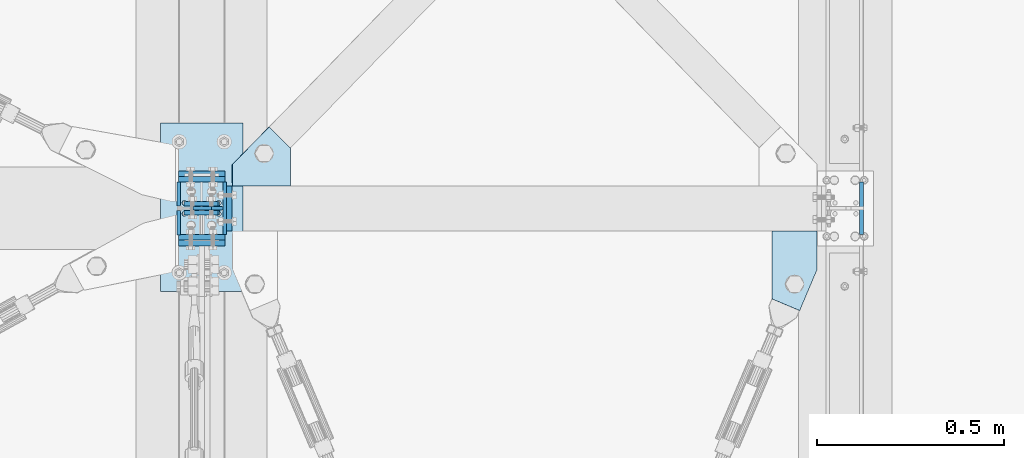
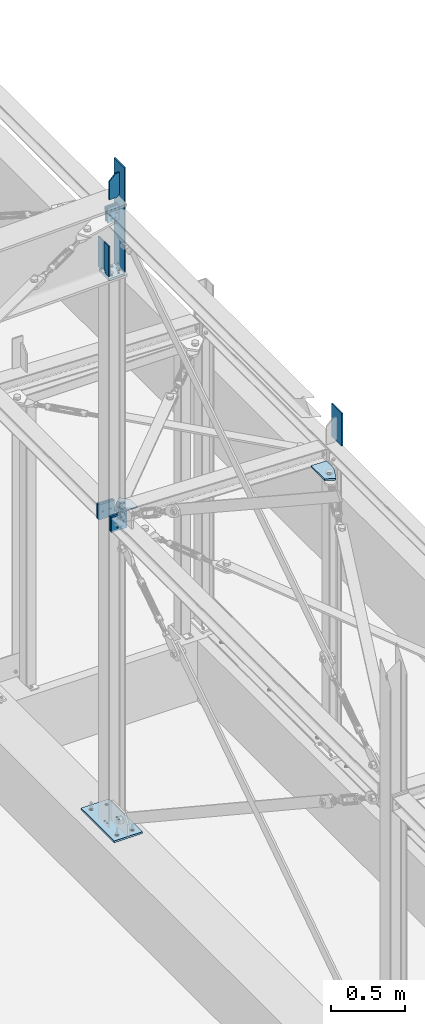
# One storey, part 62 of 476: 16 plates, 62 openings.
"""IFC2X3 building model written with IfcOpenShell, lengths in millimetres."""

from ifc_helpers import new_model, entity, si_unit, converted_unit, point, frame, frame_2d, origin, origin_with_axes, origin_2d_with_axis, place, context, project, spatial, polyline, circle_curve, line_curve, trimmed, segment, composite_curve, circle, outline, extrude, material, layer, layer_set, element, save


model = new_model("IFC2X3")

# Units and contexts
model_context = context("Model", 3, precision=1e-09, world=origin_with_axes())
ifc_project = project(units=[si_unit("LENGTHUNIT", "METRE", prefix="MILLI"), si_unit("AREAUNIT", "SQUARE_METRE"), si_unit("VOLUMEUNIT", "CUBIC_METRE"), converted_unit("PLANEANGLEUNIT", "DEGREE", entity("IfcPlaneAngleMeasure", 0.01745329), si_unit("PLANEANGLEUNIT", "RADIAN"), dimensions=[0, 0, 0, 0, 0, 0, 0])], contexts=[model_context])

# Site, building, storey
site_placement = place(None, origin_with_axes())
site = spatial("IfcSite", under=ifc_project, at=site_placement, Name="mKR Teilneubau & Sanierung BA1 - Ostfildern", CompositionType="ELEMENT")
building_placement = place(site_placement, origin_with_axes())
building = spatial("IfcBuilding", under=site, at=building_placement, Name="Struktur 1", CompositionType="ELEMENT")
storey_placement = place(building_placement, origin_with_axes())
storey = spatial("IfcBuildingStorey", under=building, at=storey_placement, Name="Default Storey", CompositionType="ELEMENT", Elevation=0.0)

# Plate, openings
ifc_material = material(Name="S235JR")
ifc_layer_1 = layer(ifc_material, 15.0)
ifc_layer_set_1 = layer_set([ifc_layer_1], Name="S235JR")
plate_1_placement = place(None, frame((23489.241863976, -6190.757397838, 2966.684261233), z_axis=(-0.029057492, 0.0, -0.999577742), x_axis=(0.0, 1.0, 0.0)))
plate_1 = element("IfcPlate", 1, at=plate_1_placement, inside=storey, material=ifc_layer_set_1, Name="-", ObjectType="-", context=model_context, shape_type="SweptSolid", body=[
    extrude(outline(polyline([(0.0, 0.0), (182.083518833, 0.0), (182.083518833, 120.416747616), (79.371322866, 120.416747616), (-31.155014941, 73.684225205), (0.0, 0.0)])), origin_with_axes(), (0.0, 0.0, -1.0), 15.0),
])
opening_1_placement = place(plate_1_placement, frame((182.083518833, 120.417747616, 0.0), z_axis=(0.0, -1.0, 0.0), x_axis=(-1.0, 0.0, 0.0)))
element("IfcOpeningElement", 2, at=opening_1_placement, cuts=plate_1, ObjectType="Opening", context=model_context, shape_type="SweptSolid", body=[
    extrude(outline(polyline([(0.0, 0.0), (8.0, 0.0), (0.0, 8.0), (0.0, 0.0)])), origin(), (0.0, 0.0, 1.0), 120.438747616),
])
opening_2_placement = place(plate_1_placement, frame((54.186661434, 60.208373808, 0.5), z_axis=(0.0, 0.0, 1.0), x_axis=(1.0, 0.0, 0.0)))
element("IfcOpeningElement", 3, at=opening_2_placement, cuts=plate_1, ObjectType="Opening", context=model_context, shape_type="SweptSolid", body=[
    extrude(circle(Radius=14.501, at=frame_2d((-14.501, 0.0), x_axis=(1.0, 0.0))), origin(), (0.0, 0.0, -1.0), 16.0),
])

ifc_layer_2 = layer(ifc_material, 10.0)
ifc_layer_set_2 = layer_set([ifc_layer_2], Name="S235JR")
plate_2_placement = place(None, frame((21942.108764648, -5943.67387897, 5888.306606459), z_axis=(0.0, 1.0, 0.0), x_axis=(1.0, 0.0, 0.0)))
plate_2 = element("IfcPlate", 4, at=plate_2_placement, inside=storey, material=ifc_layer_set_2, Name="-", ObjectType="-", context=model_context, shape_type="SweptSolid", body=[
    extrude(outline(polyline([(0.0, 0.0), (80.0, 0.0), (80.0, 197.595559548), (0.0, 200.0), (0.0, 0.0)])), origin_with_axes(), (0.0, 0.0, -1.0), 10.0),
])
opening_3_placement = place(plate_2_placement, frame((0.0, 0.0, 0.01), z_axis=(0.0, 0.0, 1.0), x_axis=(1.0, 0.0, 0.0)))
element("IfcOpeningElement", 5, at=opening_3_placement, cuts=plate_2, ObjectType="Opening", context=model_context, shape_type="SweptSolid", body=[
    extrude(outline(polyline([(0.0, 0.0), (50.0, 0.0), (0.0, 50.0), (0.0, 0.0)])), origin(), (0.0, 0.0, -1.0), 10.02),
])
opening_4_placement = place(plate_2_placement, frame((80.0, 197.595559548, 0.01), z_axis=(0.0, 0.0, 1.0), x_axis=(-0.999548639, 0.03004194, 0.0)))
element("IfcOpeningElement", 6, at=opening_4_placement, cuts=plate_2, ObjectType="Opening", context=model_context, shape_type="SweptSolid", body=[
    extrude(outline(polyline([(0.0, 0.0), (20.0, 0.0), (-0.600838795, 19.990972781), (0.0, 0.0)])), origin(), (0.0, 0.0, -1.0), 10.02),
])

# Plate
plate_3_placement = place(None, frame((23723.608764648, -6018.67387897, 2465.729061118), z_axis=(1.0, 0.0, 0.0), x_axis=(0.0, 1.0, 0.0)))
element("IfcPlate", 7, at=plate_3_placement, inside=storey, material=ifc_layer_set_2, Name="Coverplate", ObjectType="Coverplate", context=model_context, shape_type="SweptSolid", body=[
    extrude(outline(polyline([(0.0, 600.270938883), (140.0, 600.270938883), (140.0, 870.270938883), (0.0, 870.270938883), (0.0, 600.270938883)])), origin_with_axes(), (0.0, 0.0, 1.0), 10.0),
])

# Plate, openings
plate_4_placement = place(None, frame((22047.108764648, -5948.67387897, 3065.630813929), z_axis=(-1.0, 0.0, 0.0), x_axis=(0.0, 0.0, -1.0)))
plate_4 = element("IfcPlate", 8, at=plate_4_placement, inside=storey, material=ifc_layer_set_1, Name="Endplate", ObjectType="Endplate", context=model_context, shape_type="SweptSolid", body=[
    extrude(outline(polyline([(-52.0, -60.0), (52.0, -60.0), (52.0, 60.0), (-52.0, 60.0), (-52.0, -60.0)])), origin_with_axes(), (0.0, 0.0, 1.0), 15.0),
])
opening_5_placement = place(plate_4_placement, frame((-37.020699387, 14.5, 15.5), z_axis=(0.0, 0.0, -1.0), x_axis=(-1.0, 0.0, 0.0)))
element("IfcOpeningElement", 9, at=opening_5_placement, cuts=plate_4, ObjectType="Opening", context=model_context, shape_type="SweptSolid", body=[
    extrude(circle(Radius=6.001, at=origin_2d_with_axis()), origin(), (0.0, 0.0, 1.0), 16.0),
])
opening_6_placement = place(plate_4_placement, frame((37.020699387, 14.5, 15.5), z_axis=(0.0, 0.0, -1.0), x_axis=(-1.0, 0.0, 0.0)))
element("IfcOpeningElement", 10, at=opening_6_placement, cuts=plate_4, ObjectType="Opening", context=model_context, shape_type="SweptSolid", body=[
    extrude(circle(Radius=6.001, at=origin_2d_with_axis()), origin(), (0.0, 0.0, 1.0), 16.0),
])
opening_7_placement = place(plate_4_placement, frame((37.020699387, -14.5, 15.5), z_axis=(0.0, 0.0, -1.0), x_axis=(-1.0, 0.0, 0.0)))
element("IfcOpeningElement", 11, at=opening_7_placement, cuts=plate_4, ObjectType="Opening", context=model_context, shape_type="SweptSolid", body=[
    extrude(circle(Radius=6.001, at=origin_2d_with_axis()), origin(), (0.0, 0.0, 1.0), 16.0),
])
opening_8_placement = place(plate_4_placement, frame((-37.020699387, -14.5, 15.5), z_axis=(0.0, 0.0, -1.0), x_axis=(-1.0, 0.0, 0.0)))
element("IfcOpeningElement", 12, at=opening_8_placement, cuts=plate_4, ObjectType="Opening", context=model_context, shape_type="SweptSolid", body=[
    extrude(circle(Radius=6.001, at=origin_2d_with_axis()), origin(), (0.0, 0.0, 1.0), 16.0),
])
opening_9_placement = place(plate_4_placement, frame((-25.0, -35.0, 15.5), z_axis=(0.0, 0.0, -1.0), x_axis=(0.0, -1.0, 0.0)))
element("IfcOpeningElement", 13, at=opening_9_placement, cuts=plate_4, ObjectType="Opening", context=model_context, shape_type="SweptSolid", body=[
    extrude(circle(Radius=7.001, at=origin_2d_with_axis()), origin(), (0.0, 0.0, 1.0), 16.0),
])
opening_10_placement = place(plate_4_placement, frame((25.0, -35.0, 15.5), z_axis=(0.0, 0.0, -1.0), x_axis=(0.0, -1.0, 0.0)))
element("IfcOpeningElement", 14, at=opening_10_placement, cuts=plate_4, ObjectType="Opening", context=model_context, shape_type="SweptSolid", body=[
    extrude(circle(Radius=7.001, at=origin_2d_with_axis()), origin(), (0.0, 0.0, 1.0), 16.0),
])
opening_11_placement = place(plate_4_placement, frame((-25.0, 35.0, 15.5), z_axis=(0.0, 0.0, -1.0), x_axis=(0.0, 1.0, 0.0)))
element("IfcOpeningElement", 15, at=opening_11_placement, cuts=plate_4, ObjectType="Opening", context=model_context, shape_type="SweptSolid", body=[
    extrude(circle(Radius=7.001, at=origin_2d_with_axis()), origin(), (0.0, 0.0, 1.0), 16.0),
])
opening_12_placement = place(plate_4_placement, frame((25.0, 35.0, 15.5), z_axis=(0.0, 0.0, -1.0), x_axis=(0.0, 1.0, 0.0)))
element("IfcOpeningElement", 16, at=opening_12_placement, cuts=plate_4, ObjectType="Opening", context=model_context, shape_type="SweptSolid", body=[
    extrude(circle(Radius=7.001, at=origin_2d_with_axis()), origin(), (0.0, 0.0, 1.0), 16.0),
])

plate_5_placement = place(None, frame((22202.538978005, -5888.67387897, 3019.094751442), z_axis=(-0.029057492, 0.0, -0.999577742), x_axis=(-0.999577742, 0.0, 0.029057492)))
plate_5 = element("IfcPlate", 17, at=plate_5_placement, inside=storey, material=ifc_layer_set_1, Name="-", ObjectType="-", context=model_context, shape_type="SweptSolid", body=[
    extrude(outline(polyline([(0.0, 0.0), (155.058825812, 0.0), (155.058825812, 57.239054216), (57.223526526, 157.380225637), (0.0, 101.474340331), (0.0, 0.0)])), origin_with_axes(), (0.0, 0.0, 1.0), 15.0),
])
opening_13_placement = place(plate_5_placement, frame((155.059825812, 0.0, 15.0), z_axis=(-1.0, 0.0, 0.0), x_axis=(0.0, 1.0, 0.0)))
element("IfcOpeningElement", 18, at=opening_13_placement, cuts=plate_5, ObjectType="Opening", context=model_context, shape_type="SweptSolid", body=[
    extrude(outline(polyline([(0.0, 0.0), (8.0, 0.0), (0.0, 8.0), (0.0, 0.0)])), origin(), (0.0, 0.0, 1.0), 155.080825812),
])
opening_14_placement = place(plate_5_placement, frame((70.541177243, 86.509638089, 15.5), z_axis=(0.0, 0.0, -1.0), x_axis=(0.0, 1.0, 0.0)))
element("IfcOpeningElement", 19, at=opening_14_placement, cuts=plate_5, ObjectType="Opening", context=model_context, shape_type="SweptSolid", body=[
    extrude(circle(Radius=14.501, at=origin_2d_with_axis()), origin(), (0.0, 0.0, 1.0), 16.0),
])

plate_6_placement = place(None, frame((22075.608764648, -5720.67387897, 545.0), z_axis=(0.0, 0.0, -1.0), x_axis=(0.0, -1.0, 0.0)))
plate_6 = element("IfcPlate", 20, at=plate_6_placement, inside=storey, material=ifc_layer_set_1, Name="Baseplate", ObjectType="Baseplate", context=model_context, shape_type="SweptSolid", body=[
    extrude(outline(polyline([(0.0, 0.0), (450.0, 0.0), (450.0, 220.0), (0.0, 220.0), (0.0, 0.0)])), origin_with_axes(), (0.0, 0.0, 1.0), 15.0),
])
opening_15_placement = place(plate_6_placement, frame((50.0, 170.0, 15.5), z_axis=(0.0, 0.0, -1.0), x_axis=(1.0, 0.0, 0.0)))
element("IfcOpeningElement", 21, at=opening_15_placement, cuts=plate_6, ObjectType="Opening", context=model_context, shape_type="SweptSolid", body=[
    extrude(circle(Radius=11.001, at=frame_2d((350.0, 120.0), x_axis=(1.0, 0.0))), origin(), (0.0, 0.0, 1.0), 16.0),
])
opening_16_placement = place(plate_6_placement, frame((50.0, 170.0, 15.5), z_axis=(0.0, 0.0, -1.0), x_axis=(1.0, 0.0, 0.0)))
element("IfcOpeningElement", 22, at=opening_16_placement, cuts=plate_6, ObjectType="Opening", context=model_context, shape_type="SweptSolid", body=[
    extrude(circle(Radius=11.001, at=frame_2d((0.0, 120.0), x_axis=(1.0, 0.0))), origin(), (0.0, 0.0, 1.0), 16.0),
])
opening_17_placement = place(plate_6_placement, frame((50.0, 170.0, 15.5), z_axis=(0.0, 0.0, -1.0), x_axis=(1.0, 0.0, 0.0)))
element("IfcOpeningElement", 23, at=opening_17_placement, cuts=plate_6, ObjectType="Opening", context=model_context, shape_type="SweptSolid", body=[
    extrude(circle(Radius=11.001, at=frame_2d((350.0, 0.0), x_axis=(1.0, 0.0))), origin(), (0.0, 0.0, 1.0), 16.0),
])
opening_18_placement = place(plate_6_placement, frame((50.0, 170.0, 15.5), z_axis=(0.0, 0.0, -1.0), x_axis=(1.0, 0.0, 0.0)))
element("IfcOpeningElement", 24, at=opening_18_placement, cuts=plate_6, ObjectType="Opening", context=model_context, shape_type="SweptSolid", body=[
    extrude(circle(Radius=11.001, at=origin_2d_with_axis()), origin(), (0.0, 0.0, 1.0), 16.0),
])
opening_19_placement = place(plate_6_placement, frame((213.25, 156.0, 15.5), z_axis=(0.0, 0.0, -1.0), x_axis=(0.0, -1.0, 0.0)))
element("IfcOpeningElement", 25, at=opening_19_placement, cuts=plate_6, ObjectType="Opening", context=model_context, shape_type="SweptSolid", body=[
    extrude(circle(Radius=6.001, at=origin_2d_with_axis()), origin(), (0.0, 0.0, 1.0), 16.0),
])
opening_20_placement = place(plate_6_placement, frame((213.25, 64.0, 15.5), z_axis=(0.0, 0.0, -1.0), x_axis=(0.0, -1.0, 0.0)))
element("IfcOpeningElement", 26, at=opening_20_placement, cuts=plate_6, ObjectType="Opening", context=model_context, shape_type="SweptSolid", body=[
    extrude(circle(Radius=6.001, at=origin_2d_with_axis()), origin(), (0.0, 0.0, 1.0), 16.0),
])
opening_21_placement = place(plate_6_placement, frame((242.75, 64.0, 15.5), z_axis=(0.0, 0.0, -1.0), x_axis=(0.0, -1.0, 0.0)))
element("IfcOpeningElement", 27, at=opening_21_placement, cuts=plate_6, ObjectType="Opening", context=model_context, shape_type="SweptSolid", body=[
    extrude(circle(Radius=6.001, at=origin_2d_with_axis()), origin(), (0.0, 0.0, 1.0), 16.0),
])
opening_22_placement = place(plate_6_placement, frame((242.75, 156.0, 15.5), z_axis=(0.0, 0.0, -1.0), x_axis=(0.0, -1.0, 0.0)))
element("IfcOpeningElement", 28, at=opening_22_placement, cuts=plate_6, ObjectType="Opening", context=model_context, shape_type="SweptSolid", body=[
    extrude(circle(Radius=6.001, at=origin_2d_with_axis()), origin(), (0.0, 0.0, 1.0), 16.0),
])

plate_7_placement = place(None, frame((21965.608780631, -5848.67387897, 3068.000017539), z_axis=(0.0, -1.0, 0.0), x_axis=(0.0, 0.0, -1.0)))
plate_7 = element("IfcPlate", 29, at=plate_7_placement, inside=storey, material=ifc_layer_set_1, Name="Endplate#1", ObjectType="Endplate#1", context=model_context, shape_type="SweptSolid", body=[
    extrude(outline(polyline([(-62.0, -62.0), (62.0, -62.0), (62.0, 62.0), (-62.0, 62.0), (-62.0, -62.0)])), origin_with_axes(), (0.0, 0.0, 1.0), 15.0),
])
opening_23_placement = place(plate_7_placement, frame((37.0, -14.5, 15.5), z_axis=(0.0, 0.0, -1.0), x_axis=(1.0, 0.0, 0.0)))
element("IfcOpeningElement", 30, at=opening_23_placement, cuts=plate_7, ObjectType="Opening", context=model_context, shape_type="SweptSolid", body=[
    extrude(circle(Radius=6.001, at=origin_2d_with_axis()), origin(), (0.0, 0.0, 1.0), 16.0),
])
opening_24_placement = place(plate_7_placement, frame((-37.0, -14.5, 15.5), z_axis=(0.0, 0.0, -1.0), x_axis=(1.0, 0.0, 0.0)))
element("IfcOpeningElement", 31, at=opening_24_placement, cuts=plate_7, ObjectType="Opening", context=model_context, shape_type="SweptSolid", body=[
    extrude(circle(Radius=6.001, at=origin_2d_with_axis()), origin(), (0.0, 0.0, 1.0), 16.0),
])
opening_25_placement = place(plate_7_placement, frame((-37.0, 14.5, 15.5), z_axis=(0.0, 0.0, -1.0), x_axis=(1.0, 0.0, 0.0)))
element("IfcOpeningElement", 32, at=opening_25_placement, cuts=plate_7, ObjectType="Opening", context=model_context, shape_type="SweptSolid", body=[
    extrude(circle(Radius=6.001, at=origin_2d_with_axis()), origin(), (0.0, 0.0, 1.0), 16.0),
])
opening_26_placement = place(plate_7_placement, frame((37.0, 14.5, 15.5), z_axis=(0.0, 0.0, -1.0), x_axis=(1.0, 0.0, 0.0)))
element("IfcOpeningElement", 33, at=opening_26_placement, cuts=plate_7, ObjectType="Opening", context=model_context, shape_type="SweptSolid", body=[
    extrude(circle(Radius=6.001, at=origin_2d_with_axis()), origin(), (0.0, 0.0, 1.0), 16.0),
])
opening_27_placement = place(plate_7_placement, frame((0.0, -30.0, 15.5), z_axis=(0.0, 0.0, -1.0), x_axis=(0.0, -1.0, 0.0)))
element("IfcOpeningElement", 34, at=opening_27_placement, cuts=plate_7, ObjectType="Opening", context=model_context, shape_type="SweptSolid", body=[
    extrude(circle(Radius=7.001, at=origin_2d_with_axis()), origin(), (0.0, 0.0, 1.0), 16.0),
])
opening_28_placement = place(plate_7_placement, frame((0.0, 30.0, 15.5), z_axis=(0.0, 0.0, -1.0), x_axis=(-1.0, 0.0, 0.0)))
element("IfcOpeningElement", 35, at=opening_28_placement, cuts=plate_7, ObjectType="Opening", context=model_context, shape_type="SweptSolid", body=[
    extrude(circle(Radius=7.001, at=origin_2d_with_axis()), origin(), (0.0, 0.0, 1.0), 16.0),
])

plate_8_placement = place(None, frame((21965.608764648, -5878.67387897, 3068.000017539), z_axis=(0.0, 1.0, 0.0), x_axis=(1.0, 0.0, 0.0)))
plate_8 = element("IfcPlate", 36, at=plate_8_placement, inside=storey, material=ifc_layer_set_1, Name="T-plate", ObjectType="T-plate", context=model_context, shape_type="SweptSolid", body=[
    extrude(outline(polyline([(-62.0, -62.0), (62.0, -62.0), (62.0, 62.0), (-62.0, 62.0), (-62.0, -62.0)])), origin_with_axes(), (0.0, 0.0, 1.0), 15.0),
])
opening_29_placement = place(plate_8_placement, frame((30.000015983, 0.0, -0.5), z_axis=(0.0, 0.0, 1.0), x_axis=(0.0, -1.0, 0.0)))
element("IfcOpeningElement", 37, at=opening_29_placement, cuts=plate_8, ObjectType="Opening", context=model_context, shape_type="SweptSolid", body=[
    extrude(circle(Radius=7.001, at=origin_2d_with_axis()), origin(), (0.0, 0.0, 1.0), 16.0),
])
opening_30_placement = place(plate_8_placement, frame((-29.999984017, 0.0, -0.5), z_axis=(0.0, 0.0, 1.0), x_axis=(-1.0, 0.0, 0.0)))
element("IfcOpeningElement", 38, at=opening_30_placement, cuts=plate_8, ObjectType="Opening", context=model_context, shape_type="SweptSolid", body=[
    extrude(circle(Radius=7.001, at=origin_2d_with_axis()), origin(), (0.0, 0.0, 1.0), 16.0),
])

plate_9_placement = place(None, frame((21965.608780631, -6048.67387897, 3068.000017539), z_axis=(0.0, 1.0, 0.0), x_axis=(0.0, 0.0, -1.0)))
plate_9 = element("IfcPlate", 39, at=plate_9_placement, inside=storey, material=ifc_layer_set_1, Name="Endplate#1", ObjectType="Endplate#1", context=model_context, shape_type="SweptSolid", body=[
    extrude(outline(polyline([(-62.0, -62.0), (62.0, -62.0), (62.0, 62.0), (-62.0, 62.0), (-62.0, -62.0)])), origin_with_axes(), (0.0, 0.0, 1.0), 15.0),
])
opening_31_placement = place(plate_9_placement, frame((37.0, 14.5, 15.5), z_axis=(0.0, 0.0, -1.0), x_axis=(-1.0, 0.0, 0.0)))
element("IfcOpeningElement", 40, at=opening_31_placement, cuts=plate_9, ObjectType="Opening", context=model_context, shape_type="SweptSolid", body=[
    extrude(circle(Radius=6.001, at=origin_2d_with_axis()), origin(), (0.0, 0.0, 1.0), 16.0),
])
opening_32_placement = place(plate_9_placement, frame((-37.0, 14.5, 15.5), z_axis=(0.0, 0.0, -1.0), x_axis=(-1.0, 0.0, 0.0)))
element("IfcOpeningElement", 41, at=opening_32_placement, cuts=plate_9, ObjectType="Opening", context=model_context, shape_type="SweptSolid", body=[
    extrude(circle(Radius=6.001, at=origin_2d_with_axis()), origin(), (0.0, 0.0, 1.0), 16.0),
])
opening_33_placement = place(plate_9_placement, frame((-37.0, -14.5, 15.5), z_axis=(0.0, 0.0, -1.0), x_axis=(-1.0, 0.0, 0.0)))
element("IfcOpeningElement", 42, at=opening_33_placement, cuts=plate_9, ObjectType="Opening", context=model_context, shape_type="SweptSolid", body=[
    extrude(circle(Radius=6.001, at=origin_2d_with_axis()), origin(), (0.0, 0.0, 1.0), 16.0),
])
opening_34_placement = place(plate_9_placement, frame((37.0, -14.5, 15.5), z_axis=(0.0, 0.0, -1.0), x_axis=(-1.0, 0.0, 0.0)))
element("IfcOpeningElement", 43, at=opening_34_placement, cuts=plate_9, ObjectType="Opening", context=model_context, shape_type="SweptSolid", body=[
    extrude(circle(Radius=6.001, at=origin_2d_with_axis()), origin(), (0.0, 0.0, 1.0), 16.0),
])
opening_35_placement = place(plate_9_placement, frame((0.0, 30.0, 15.5), z_axis=(0.0, 0.0, -1.0), x_axis=(-1.0, 0.0, 0.0)))
element("IfcOpeningElement", 44, at=opening_35_placement, cuts=plate_9, ObjectType="Opening", context=model_context, shape_type="SweptSolid", body=[
    extrude(circle(Radius=7.001, at=origin_2d_with_axis()), origin(), (0.0, 0.0, 1.0), 16.0),
])
opening_36_placement = place(plate_9_placement, frame((0.0, -30.0, 15.5), z_axis=(0.0, 0.0, -1.0), x_axis=(0.0, -1.0, 0.0)))
element("IfcOpeningElement", 45, at=opening_36_placement, cuts=plate_9, ObjectType="Opening", context=model_context, shape_type="SweptSolid", body=[
    extrude(circle(Radius=7.001, at=origin_2d_with_axis()), origin(), (0.0, 0.0, 1.0), 16.0),
])

plate_10_placement = place(None, frame((21965.608764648, -6018.67387897, 3068.000017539), z_axis=(0.0, -1.0, 0.0), x_axis=(-1.0, 0.0, 0.0)))
plate_10 = element("IfcPlate", 46, at=plate_10_placement, inside=storey, material=ifc_layer_set_1, Name="T-plate", ObjectType="T-plate", context=model_context, shape_type="SweptSolid", body=[
    extrude(outline(polyline([(-62.0, -62.0), (62.0, -62.0), (62.0, 62.0), (-62.0, 62.0), (-62.0, -62.0)])), origin_with_axes(), (0.0, 0.0, 1.0), 15.0),
])
opening_37_placement = place(plate_10_placement, frame((29.999984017, 0.0, -0.5), z_axis=(0.0, 0.0, 1.0), x_axis=(0.0, -1.0, 0.0)))
element("IfcOpeningElement", 47, at=opening_37_placement, cuts=plate_10, ObjectType="Opening", context=model_context, shape_type="SweptSolid", body=[
    extrude(circle(Radius=7.001, at=origin_2d_with_axis()), origin(), (0.0, 0.0, 1.0), 16.0),
])
opening_38_placement = place(plate_10_placement, frame((-30.000015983, 0.0, -0.5), z_axis=(0.0, 0.0, 1.0), x_axis=(-1.0, 0.0, 0.0)))
element("IfcOpeningElement", 48, at=opening_38_placement, cuts=plate_10, ObjectType="Opening", context=model_context, shape_type="SweptSolid", body=[
    extrude(circle(Radius=7.001, at=origin_2d_with_axis()), origin(), (0.0, 0.0, 1.0), 16.0),
])

ifc_layer_3 = layer(ifc_material, 12.0)
ifc_layer_set_3 = layer_set([ifc_layer_3], Name="S235JR")
plate_11_placement = place(None, frame((22008.725869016, -5954.67387897, 5635.31111627), z_axis=(0.0, -1.0, 0.0), x_axis=(-0.999548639, 0.0, -0.030041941)))
plate_11 = element("IfcPlate", 49, at=plate_11_placement, inside=storey, material=ifc_layer_set_3, Name="Endplate", ObjectType="Endplate", context=model_context, shape_type="SweptSolid", body=[
    extrude(outline(polyline([(0.0, 0.0), (90.0, 0.0), (90.0, 124.0), (0.0, 124.0), (0.0, 0.0)])), origin_with_axes(), (0.0, 0.0, 1.0), 12.0),
])
opening_39_placement = place(plate_11_placement, frame((59.5, 99.0, -0.5), z_axis=(0.0, 0.0, 1.0), x_axis=(0.0, -1.0, 0.0)))
element("IfcOpeningElement", 50, at=opening_39_placement, cuts=plate_11, ObjectType="Opening", context=model_context, shape_type="SweptSolid", body=[
    extrude(circle(Radius=6.001, at=origin_2d_with_axis()), origin(), (0.0, 0.0, 1.0), 13.0),
])
opening_40_placement = place(plate_11_placement, frame((59.5, 25.0, -0.5), z_axis=(0.0, 0.0, 1.0), x_axis=(0.0, -1.0, 0.0)))
element("IfcOpeningElement", 51, at=opening_40_placement, cuts=plate_11, ObjectType="Opening", context=model_context, shape_type="SweptSolid", body=[
    extrude(circle(Radius=6.001, at=origin_2d_with_axis()), origin(), (0.0, 0.0, 1.0), 13.0),
])
opening_41_placement = place(plate_11_placement, frame((30.5, 25.0, -0.5), z_axis=(0.0, 0.0, 1.0), x_axis=(0.0, -1.0, 0.0)))
element("IfcOpeningElement", 52, at=opening_41_placement, cuts=plate_11, ObjectType="Opening", context=model_context, shape_type="SweptSolid", body=[
    extrude(circle(Radius=6.001, at=origin_2d_with_axis()), origin(), (0.0, 0.0, 1.0), 13.0),
])
opening_42_placement = place(plate_11_placement, frame((30.5, 99.0, -0.5), z_axis=(0.0, 0.0, 1.0), x_axis=(0.0, -1.0, 0.0)))
element("IfcOpeningElement", 53, at=opening_42_placement, cuts=plate_11, ObjectType="Opening", context=model_context, shape_type="SweptSolid", body=[
    extrude(circle(Radius=6.001, at=origin_2d_with_axis()), origin(), (0.0, 0.0, 1.0), 13.0),
])
opening_43_placement = place(plate_11_placement, frame((70.0, 62.0, -0.5), z_axis=(0.0, 0.0, 1.0), x_axis=(0.0, -1.0, 0.0)))
element("IfcOpeningElement", 54, at=opening_43_placement, cuts=plate_11, ObjectType="Opening", context=model_context, shape_type="SweptSolid", body=[
    extrude(circle(Radius=7.001, at=origin_2d_with_axis()), origin(), (0.0, 0.0, 1.0), 13.0),
])
opening_44_placement = place(plate_11_placement, frame((20.0, 62.0, -0.5), z_axis=(0.0, 0.0, 1.0), x_axis=(0.0, -1.0, 0.0)))
element("IfcOpeningElement", 55, at=opening_44_placement, cuts=plate_11, ObjectType="Opening", context=model_context, shape_type="SweptSolid", body=[
    extrude(circle(Radius=7.001, at=origin_2d_with_axis()), origin(), (0.0, 0.0, 1.0), 13.0),
])

plate_12_placement = place(None, frame((21918.766491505, -5942.67387897, 5632.607341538), z_axis=(0.0, 1.0, 0.0), x_axis=(0.999548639, 0.0, 0.030041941)))
plate_12 = element("IfcPlate", 56, at=plate_12_placement, inside=storey, material=ifc_layer_set_3, Name="Endplate", ObjectType="Endplate", context=model_context, shape_type="SweptSolid", body=[
    extrude(outline(polyline([(0.0, 0.0), (90.0, 0.0), (90.0, 124.0), (0.0, 124.0), (0.0, 0.0)])), origin_with_axes(), (0.0, 0.0, 1.0), 12.0),
])
opening_45_placement = place(plate_12_placement, frame((30.5, 99.0, -0.5), z_axis=(0.0, 0.0, 1.0), x_axis=(0.0, 1.0, 0.0)))
element("IfcOpeningElement", 57, at=opening_45_placement, cuts=plate_12, ObjectType="Opening", context=model_context, shape_type="SweptSolid", body=[
    extrude(circle(Radius=6.001, at=origin_2d_with_axis()), origin(), (0.0, 0.0, 1.0), 13.0),
])
opening_46_placement = place(plate_12_placement, frame((30.5, 25.0, -0.5), z_axis=(0.0, 0.0, 1.0), x_axis=(0.0, 1.0, 0.0)))
element("IfcOpeningElement", 58, at=opening_46_placement, cuts=plate_12, ObjectType="Opening", context=model_context, shape_type="SweptSolid", body=[
    extrude(circle(Radius=6.001, at=origin_2d_with_axis()), origin(), (0.0, 0.0, 1.0), 13.0),
])
opening_47_placement = place(plate_12_placement, frame((59.5, 25.0, -0.5), z_axis=(0.0, 0.0, 1.0), x_axis=(0.0, 1.0, 0.0)))
element("IfcOpeningElement", 59, at=opening_47_placement, cuts=plate_12, ObjectType="Opening", context=model_context, shape_type="SweptSolid", body=[
    extrude(circle(Radius=6.001, at=origin_2d_with_axis()), origin(), (0.0, 0.0, 1.0), 13.0),
])
opening_48_placement = place(plate_12_placement, frame((59.5, 99.0, -0.5), z_axis=(0.0, 0.0, 1.0), x_axis=(0.0, 1.0, 0.0)))
element("IfcOpeningElement", 60, at=opening_48_placement, cuts=plate_12, ObjectType="Opening", context=model_context, shape_type="SweptSolid", body=[
    extrude(circle(Radius=6.001, at=origin_2d_with_axis()), origin(), (0.0, 0.0, 1.0), 13.0),
])
opening_49_placement = place(plate_12_placement, frame((20.0, 62.0, 12.5), z_axis=(0.0, 0.0, -1.0), x_axis=(0.0, -1.0, 0.0)))
element("IfcOpeningElement", 61, at=opening_49_placement, cuts=plate_12, ObjectType="Opening", context=model_context, shape_type="SweptSolid", body=[
    extrude(circle(Radius=7.001, at=origin_2d_with_axis()), origin(), (0.0, 0.0, 1.0), 13.0),
])
opening_50_placement = place(plate_12_placement, frame((70.0, 62.0, 12.5), z_axis=(0.0, 0.0, -1.0), x_axis=(0.0, -1.0, 0.0)))
element("IfcOpeningElement", 62, at=opening_50_placement, cuts=plate_12, ObjectType="Opening", context=model_context, shape_type="SweptSolid", body=[
    extrude(circle(Radius=7.001, at=origin_2d_with_axis()), origin(), (0.0, 0.0, 1.0), 13.0),
])

# Plate
plate_13_placement = place(None, frame((22022.108764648, -6018.67387897, 5095.440131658), z_axis=(1.0, 0.0, 0.0), x_axis=(0.0, 1.0, 0.0)))
element("IfcPlate", 63, at=plate_13_placement, inside=storey, material=ifc_layer_set_2, Name="Coverplate", ObjectType="Coverplate", context=model_context, shape_type="SweptSolid", body=[
    extrude(outline(polyline([(0.0, 0.0), (140.0, 0.0), (140.0, 870.270938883), (0.0, 870.270938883), (0.0, 0.0)])), origin_with_axes(), (0.0, 0.0, 1.0), 10.0),
])

# Plate, openings
ifc_layer_4 = layer(ifc_material, 20.0)
ifc_layer_set_4 = layer_set([ifc_layer_4], Name="S235JR")
plate_14_placement = place(None, frame((22027.111021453, -6018.67387897, 5070.581445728), z_axis=(-0.030041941, 0.0, 0.999548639), x_axis=(0.0, 1.0, 0.0)))
plate_14 = element("IfcPlate", 64, at=plate_14_placement, inside=storey, material=ifc_layer_set_4, Name="Endplate", ObjectType="Endplate", context=model_context, shape_type="SweptSolid", body=[
    extrude(outline(polyline([(0.0, 0.0), (140.0, 0.0), (140.0, 123.060058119), (0.0, 123.060058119), (0.0, 0.0)])), origin_with_axes(), (0.0, 0.0, 1.0), 20.0),
])
opening_51_placement = place(plate_14_placement, frame((84.75, 107.556219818, 20.5), z_axis=(0.0, 0.0, -1.0), x_axis=(0.0, 1.0, 0.0)))
element("IfcOpeningElement", 65, at=opening_51_placement, cuts=plate_14, ObjectType="Opening", context=model_context, shape_type="SweptSolid", body=[
    extrude(circle(Radius=6.001, at=origin_2d_with_axis()), origin(), (0.0, 0.0, 1.0), 21.0),
])
opening_52_placement = place(plate_14_placement, frame((84.75, 15.503838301, 20.5), z_axis=(0.0, 0.0, -1.0), x_axis=(0.0, 1.0, 0.0)))
element("IfcOpeningElement", 66, at=opening_52_placement, cuts=plate_14, ObjectType="Opening", context=model_context, shape_type="SweptSolid", body=[
    extrude(circle(Radius=6.001, at=origin_2d_with_axis()), origin(), (0.0, 0.0, 1.0), 21.0),
])
opening_53_placement = place(plate_14_placement, frame((55.25, 15.503838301, 20.5), z_axis=(0.0, 0.0, -1.0), x_axis=(0.0, 1.0, 0.0)))
element("IfcOpeningElement", 67, at=opening_53_placement, cuts=plate_14, ObjectType="Opening", context=model_context, shape_type="SweptSolid", body=[
    extrude(circle(Radius=6.001, at=origin_2d_with_axis()), origin(), (0.0, 0.0, 1.0), 21.0),
])
opening_54_placement = place(plate_14_placement, frame((55.25, 107.556219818, 20.5), z_axis=(0.0, 0.0, -1.0), x_axis=(0.0, 1.0, 0.0)))
element("IfcOpeningElement", 68, at=opening_54_placement, cuts=plate_14, ObjectType="Opening", context=model_context, shape_type="SweptSolid", body=[
    extrude(circle(Radius=6.001, at=origin_2d_with_axis()), origin(), (0.0, 0.0, 1.0), 21.0),
])
opening_55_placement = place(plate_14_placement, frame((107.999, 34.03, -0.5), z_axis=(0.0, 0.0, -1.0), x_axis=(-1.0, 0.0, 0.0)))
element("IfcOpeningElement", 69, at=opening_55_placement, cuts=plate_14, ObjectType="Opening", context=model_context, shape_type="SweptSolid", body=[
    extrude(circle(Radius=7.001, at=frame_2d((-7.001, 0.0), x_axis=(1.0, 0.0))), origin(), (0.0, 0.0, -1.0), 21.0),
])
opening_56_placement = place(plate_14_placement, frame((17.999, 34.03, -0.5), z_axis=(0.0, 0.0, -1.0), x_axis=(-1.0, 0.0, 0.0)))
element("IfcOpeningElement", 70, at=opening_56_placement, cuts=plate_14, ObjectType="Opening", context=model_context, shape_type="SweptSolid", body=[
    extrude(circle(Radius=7.001, at=frame_2d((-7.001, 0.0), x_axis=(1.0, 0.0))), origin(), (0.0, 0.0, -1.0), 21.0),
])
opening_57_placement = place(plate_14_placement, frame((107.999, 89.03, -0.5), z_axis=(0.0, 0.0, -1.0), x_axis=(-1.0, 0.0, 0.0)))
element("IfcOpeningElement", 71, at=opening_57_placement, cuts=plate_14, ObjectType="Opening", context=model_context, shape_type="SweptSolid", body=[
    extrude(circle(Radius=7.001, at=frame_2d((-7.001, 0.0), x_axis=(1.0, 0.0))), origin(), (0.0, 0.0, -1.0), 21.0),
])
opening_58_placement = place(plate_14_placement, frame((17.999, 89.03, -0.5), z_axis=(0.0, 0.0, -1.0), x_axis=(-1.0, 0.0, 0.0)))
element("IfcOpeningElement", 72, at=opening_58_placement, cuts=plate_14, ObjectType="Opening", context=model_context, shape_type="SweptSolid", body=[
    extrude(circle(Radius=7.001, at=frame_2d((-7.001, 0.0), x_axis=(1.0, 0.0))), origin(), (0.0, 0.0, -1.0), 21.0),
])

plate_15_placement = place(None, frame((21909.108764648, -5954.67387897, 5107.553116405), z_axis=(-1.0, 0.0, 0.0), x_axis=(0.0, -1.0, 0.0)))
plate_15 = element("IfcPlate", 73, at=plate_15_placement, inside=storey, material=ifc_layer_set_2, Name="Stiffener#2", ObjectType="Stiffener#2", context=model_context, shape_type="SweptSolid", body=[
    extrude(outline(polyline([(0.0, 0.0), (65.0, 0.0), (65.0, 250.0), (0.0, 250.0), (0.0, 0.0)])), origin_with_axes(), (0.0, 0.0, 1.0), 10.0),
])
opening_59_placement = place(plate_15_placement, frame((0.0, 0.0, -0.01), z_axis=(0.0, 0.0, 1.0), x_axis=(1.0, 0.0, 0.0)))
element("IfcOpeningElement", 74, at=opening_59_placement, cuts=plate_15, ObjectType="Opening", context=model_context, shape_type="SweptSolid", body=[
    extrude(outline(composite_curve([segment(trimmed(line_curve((0.0, 0.0), (1.0, 0.0), 25.0), [point((0.0, 0.0))], [point((25.0, 0.0))], True, "CARTESIAN"), True, "CONTINUOUS"), segment(trimmed(circle_curve(frame_2d((25.0, 25.0), x_axis=(-1.0, 0.0)), 25.0), [point((25.0, 0.0))], [point((0.0, 25.0))], False, "CARTESIAN"), True, "CONTINUOUS"), segment(trimmed(line_curve((0.0, 25.0), (0.0, -1.0), 25.0), [point((0.0, 25.0))], [point((0.0, 0.0))], True, "CARTESIAN"), True, "CONTINUOUS")], self_intersect=False)), origin(), (0.0, 0.0, 1.0), 10.02),
])
opening_60_placement = place(plate_15_placement, frame((24.0, 22.198767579, -0.5), z_axis=(0.0, 0.0, 1.0), x_axis=(0.0, -1.0, 0.0)))
element("IfcOpeningElement", 75, at=opening_60_placement, cuts=plate_15, ObjectType="Opening", context=model_context, shape_type="SweptSolid", body=[
    extrude(circle(Radius=7.001, at=frame_2d((7.0, -7.0), x_axis=(1.0, 0.0))), origin(), (0.0, 0.0, 1.0), 11.0),
])

plate_16_placement = place(None, frame((21909.108764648, -5877.67387897, 5107.553116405), z_axis=(-1.0, 0.0, 0.0), x_axis=(0.0, -1.0, 0.0)))
plate_16 = element("IfcPlate", 76, at=plate_16_placement, inside=storey, material=ifc_layer_set_2, Name="Stiffener#2", ObjectType="Stiffener#2", context=model_context, shape_type="SweptSolid", body=[
    extrude(outline(polyline([(0.0, 0.0), (65.0, 0.0), (65.0, 250.0), (0.0, 250.0), (0.0, 0.0)])), origin_with_axes(), (0.0, 0.0, 1.0), 10.0),
])
opening_61_placement = place(plate_16_placement, frame((0.0, 0.0, -0.01), z_axis=(0.0, 0.0, 1.0), x_axis=(1.0, 0.0, 0.0)))
element("IfcOpeningElement", 77, at=opening_61_placement, cuts=plate_16, ObjectType="Opening", context=model_context, shape_type="SweptSolid", body=[
    extrude(outline(composite_curve([segment(trimmed(line_curve((65.0, 0.0), (0.0, 1.0), 25.0), [point((65.0, 0.0))], [point((65.0, 25.0))], True, "CARTESIAN"), True, "CONTINUOUS"), segment(trimmed(circle_curve(frame_2d((40.0, 25.0), x_axis=(-1.0, 0.0)), 25.0), [point((65.0, 25.0))], [point((40.0, 0.0))], False, "CARTESIAN"), True, "CONTINUOUS"), segment(trimmed(line_curve((40.0, 0.0), (1.0, 0.0), 25.0), [point((40.0, 0.0))], [point((65.0, 0.0))], True, "CARTESIAN"), True, "CONTINUOUS")], self_intersect=False)), origin(), (0.0, 0.0, 1.0), 10.02),
])
opening_62_placement = place(plate_16_placement, frame((41.0, 22.198767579, -0.5), z_axis=(0.0, 0.0, 1.0), x_axis=(0.0, -1.0, 0.0)))
element("IfcOpeningElement", 78, at=opening_62_placement, cuts=plate_16, ObjectType="Opening", context=model_context, shape_type="SweptSolid", body=[
    extrude(circle(Radius=7.001, at=frame_2d((7.0, 7.0), x_axis=(1.0, 0.0))), origin(), (0.0, 0.0, 1.0), 11.0),
])

save(model, "model.ifc")
